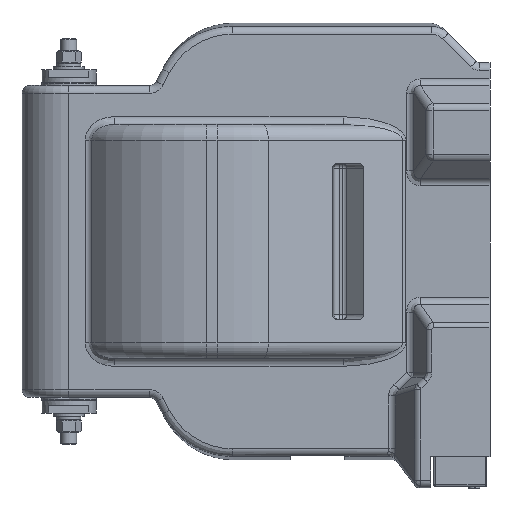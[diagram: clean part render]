
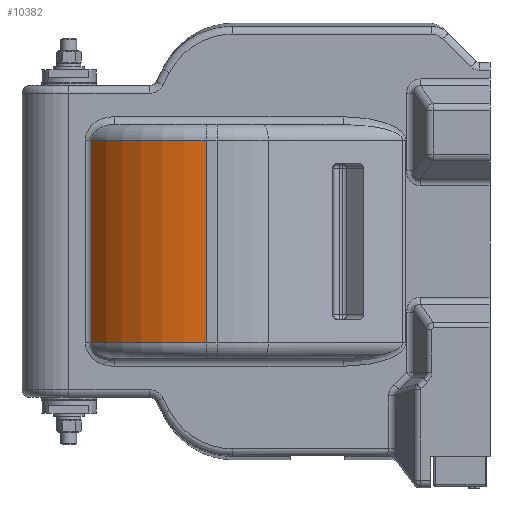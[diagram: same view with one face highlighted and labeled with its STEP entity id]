
A CAD part, left-side view. The second image highlights one B-rep face of the part: STEP entity #10382.
In plain terms, the highlighted cylindrical face has radius 88 mm (diameter 176 mm), a partial arc.
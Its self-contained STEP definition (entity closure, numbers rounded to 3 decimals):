
#10382=ADVANCED_FACE('',(#22785),#22787,.T.);
#22785=FACE_BOUND('',#22786,.T.);
#22786=EDGE_LOOP('',(#31376,#31377,#31378,#31379));
#22787=CYLINDRICAL_SURFACE('',#22788,88.);
#22788=AXIS2_PLACEMENT_3D('',#22789,#22790,#22791);
#22789=CARTESIAN_POINT('',(0.,182.,0.));
#22790=DIRECTION('',(0.,0.,1.));
#22791=DIRECTION('',(1.,0.,0.));
#31376=ORIENTED_EDGE('',*,*,#36212,.F.);
#31377=ORIENTED_EDGE('',*,*,#36584,.F.);
#31378=ORIENTED_EDGE('',*,*,#36585,.F.);
#31379=ORIENTED_EDGE('',*,*,#36586,.T.);
#36212=EDGE_CURVE('',#41554,#41555,#41556,.T.);
#36584=EDGE_CURVE('',#42149,#41554,#42150,.T.);
#36585=EDGE_CURVE('',#42151,#42149,#42152,.T.);
#36586=EDGE_CURVE('',#42151,#41555,#42153,.T.);
#41554=VERTEX_POINT('',#53787);
#41555=VERTEX_POINT('',#53788);
#41556=LINE('',#53789,#53790);
#42149=VERTEX_POINT('',#55575);
#42150=CIRCLE('',#55576,88.);
#42151=VERTEX_POINT('',#55580);
#42152=LINE('',#55581,#55582);
#42153=CIRCLE('',#55584,88.);
#53787=CARTESIAN_POINT('',(-48.731,255.275,-65.));
#53788=CARTESIAN_POINT('',(-48.731,255.275,65.));
#53789=CARTESIAN_POINT('',(-48.731,255.275,-65.));
#53790=VECTOR('',#53791,1.);
#53791=DIRECTION('',(0.,0.,1.));
#55575=CARTESIAN_POINT('',(-88.,182.,-65.));
#55576=AXIS2_PLACEMENT_3D('',#55577,#55578,#55579);
#55577=CARTESIAN_POINT('',(0.,182.,-65.));
#55578=DIRECTION('',(-0.,-0.,-1.));
#55579=DIRECTION('',(-1.,0.,0.));
#55580=CARTESIAN_POINT('',(-88.,182.,65.));
#55581=CARTESIAN_POINT('',(-88.,182.,65.));
#55582=VECTOR('',#55583,1.);
#55583=DIRECTION('',(0.,0.,-1.));
#55584=AXIS2_PLACEMENT_3D('',#55585,#55586,#55587);
#55585=CARTESIAN_POINT('',(0.,182.,65.));
#55586=DIRECTION('',(-0.,-0.,-1.));
#55587=DIRECTION('',(-1.,0.,0.));
